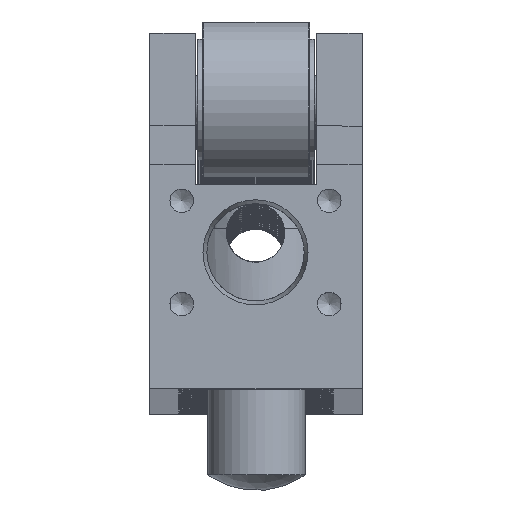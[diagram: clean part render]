
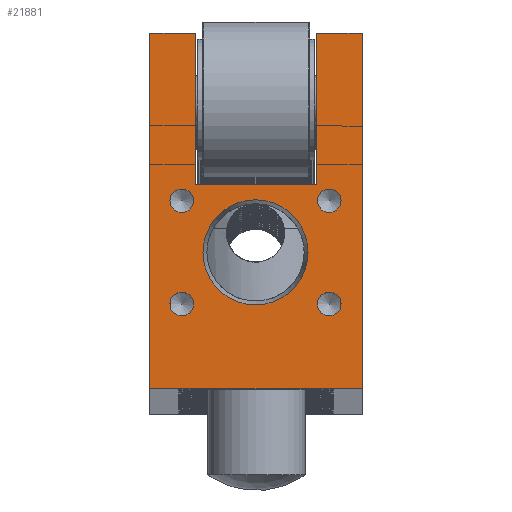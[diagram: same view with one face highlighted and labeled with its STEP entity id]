
A CAD part, top view. The second image highlights one B-rep face of the part: STEP entity #21881.
In plain terms, the highlighted planar face has unit normal (0, 0, 1).
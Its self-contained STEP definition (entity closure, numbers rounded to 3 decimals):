
#779=FACE_BOUND('',#3790,.T.);
#780=FACE_BOUND('',#3791,.T.);
#781=FACE_BOUND('',#3792,.T.);
#782=FACE_BOUND('',#3793,.T.);
#783=FACE_BOUND('',#3794,.T.);
#1220=PLANE('',#24505);
#2432=FACE_OUTER_BOUND('',#3789,.T.);
#3789=EDGE_LOOP('',(#17209,#17210,#17211,#17212,#17213,#17214,#17215,#17216));
#3790=EDGE_LOOP('',(#17217));
#3791=EDGE_LOOP('',(#17218,#17219));
#3792=EDGE_LOOP('',(#17220,#17221));
#3793=EDGE_LOOP('',(#17222,#17223));
#3794=EDGE_LOOP('',(#17224,#17225));
#4880=LINE('',#39243,#5709);
#4881=LINE('',#39245,#5710);
#4882=LINE('',#39247,#5711);
#4883=LINE('',#39249,#5712);
#4884=LINE('',#39251,#5713);
#4885=LINE('',#39253,#5714);
#4886=LINE('',#39255,#5715);
#4887=LINE('',#39256,#5716);
#5709=VECTOR('',#30353,10.);
#5710=VECTOR('',#30354,10.);
#5711=VECTOR('',#30355,10.);
#5712=VECTOR('',#30356,10.);
#5713=VECTOR('',#30357,10.);
#5714=VECTOR('',#30358,10.);
#5715=VECTOR('',#30359,10.);
#5716=VECTOR('',#30360,10.);
#7416=CIRCLE('',#24506,5.402);
#7417=CIRCLE('',#24507,1.23);
#7418=CIRCLE('',#24508,1.23);
#7419=CIRCLE('',#24509,1.23);
#7420=CIRCLE('',#24510,1.23);
#7421=CIRCLE('',#24511,1.23);
#7422=CIRCLE('',#24512,1.23);
#7423=CIRCLE('',#24513,1.23);
#7424=CIRCLE('',#24514,1.23);
#9391=VERTEX_POINT('',#39241);
#9392=VERTEX_POINT('',#39242);
#9393=VERTEX_POINT('',#39244);
#9394=VERTEX_POINT('',#39246);
#9395=VERTEX_POINT('',#39248);
#9396=VERTEX_POINT('',#39250);
#9397=VERTEX_POINT('',#39252);
#9398=VERTEX_POINT('',#39254);
#9399=VERTEX_POINT('',#39257);
#9400=VERTEX_POINT('',#39259);
#9401=VERTEX_POINT('',#39260);
#9402=VERTEX_POINT('',#39263);
#9403=VERTEX_POINT('',#39264);
#9404=VERTEX_POINT('',#39267);
#9405=VERTEX_POINT('',#39268);
#9406=VERTEX_POINT('',#39271);
#9407=VERTEX_POINT('',#39272);
#12214=EDGE_CURVE('',#9391,#9392,#4880,.T.);
#12215=EDGE_CURVE('',#9392,#9393,#4881,.T.);
#12216=EDGE_CURVE('',#9393,#9394,#4882,.T.);
#12217=EDGE_CURVE('',#9394,#9395,#4883,.T.);
#12218=EDGE_CURVE('',#9395,#9396,#4884,.T.);
#12219=EDGE_CURVE('',#9396,#9397,#4885,.T.);
#12220=EDGE_CURVE('',#9397,#9398,#4886,.T.);
#12221=EDGE_CURVE('',#9398,#9391,#4887,.T.);
#12222=EDGE_CURVE('',#9399,#9399,#7416,.T.);
#12223=EDGE_CURVE('',#9400,#9401,#7417,.T.);
#12224=EDGE_CURVE('',#9401,#9400,#7418,.T.);
#12225=EDGE_CURVE('',#9402,#9403,#7419,.T.);
#12226=EDGE_CURVE('',#9403,#9402,#7420,.T.);
#12227=EDGE_CURVE('',#9404,#9405,#7421,.T.);
#12228=EDGE_CURVE('',#9405,#9404,#7422,.T.);
#12229=EDGE_CURVE('',#9406,#9407,#7423,.T.);
#12230=EDGE_CURVE('',#9407,#9406,#7424,.T.);
#17209=ORIENTED_EDGE('',*,*,#12214,.T.);
#17210=ORIENTED_EDGE('',*,*,#12215,.T.);
#17211=ORIENTED_EDGE('',*,*,#12216,.T.);
#17212=ORIENTED_EDGE('',*,*,#12217,.T.);
#17213=ORIENTED_EDGE('',*,*,#12218,.T.);
#17214=ORIENTED_EDGE('',*,*,#12219,.T.);
#17215=ORIENTED_EDGE('',*,*,#12220,.T.);
#17216=ORIENTED_EDGE('',*,*,#12221,.T.);
#17217=ORIENTED_EDGE('',*,*,#12222,.F.);
#17218=ORIENTED_EDGE('',*,*,#12223,.T.);
#17219=ORIENTED_EDGE('',*,*,#12224,.T.);
#17220=ORIENTED_EDGE('',*,*,#12225,.T.);
#17221=ORIENTED_EDGE('',*,*,#12226,.T.);
#17222=ORIENTED_EDGE('',*,*,#12227,.T.);
#17223=ORIENTED_EDGE('',*,*,#12228,.T.);
#17224=ORIENTED_EDGE('',*,*,#12229,.T.);
#17225=ORIENTED_EDGE('',*,*,#12230,.T.);
#21881=ADVANCED_FACE('',(#2432,#779,#780,#781,#782,#783),#1220,.T.);
#24505=AXIS2_PLACEMENT_3D('',#39240,#30351,#30352);
#24506=AXIS2_PLACEMENT_3D('',#39258,#30361,#30362);
#24507=AXIS2_PLACEMENT_3D('',#39261,#30363,#30364);
#24508=AXIS2_PLACEMENT_3D('',#39262,#30365,#30366);
#24509=AXIS2_PLACEMENT_3D('',#39265,#30367,#30368);
#24510=AXIS2_PLACEMENT_3D('',#39266,#30369,#30370);
#24511=AXIS2_PLACEMENT_3D('',#39269,#30371,#30372);
#24512=AXIS2_PLACEMENT_3D('',#39270,#30373,#30374);
#24513=AXIS2_PLACEMENT_3D('',#39273,#30375,#30376);
#24514=AXIS2_PLACEMENT_3D('',#39274,#30377,#30378);
#30351=DIRECTION('center_axis',(0.,0.,1.));
#30352=DIRECTION('ref_axis',(1.,0.,0.));
#30353=DIRECTION('',(1.,0.,0.));
#30354=DIRECTION('',(0.,1.,0.));
#30355=DIRECTION('',(-1.,0.,0.));
#30356=DIRECTION('',(0.,-1.,0.));
#30357=DIRECTION('',(-1.,0.,0.));
#30358=DIRECTION('',(0.,1.,0.));
#30359=DIRECTION('',(-1.,0.,0.));
#30360=DIRECTION('',(0.,-1.,0.));
#30361=DIRECTION('center_axis',(0.,0.,1.));
#30362=DIRECTION('ref_axis',(-1.,0.,0.));
#30363=DIRECTION('center_axis',(0.,0.,-1.));
#30364=DIRECTION('ref_axis',(1.,0.,0.));
#30365=DIRECTION('center_axis',(0.,0.,-1.));
#30366=DIRECTION('ref_axis',(1.,0.,0.));
#30367=DIRECTION('center_axis',(0.,0.,-1.));
#30368=DIRECTION('ref_axis',(1.,0.,0.));
#30369=DIRECTION('center_axis',(0.,0.,-1.));
#30370=DIRECTION('ref_axis',(1.,0.,0.));
#30371=DIRECTION('center_axis',(0.,0.,-1.));
#30372=DIRECTION('ref_axis',(1.,0.,0.));
#30373=DIRECTION('center_axis',(0.,0.,-1.));
#30374=DIRECTION('ref_axis',(1.,0.,0.));
#30375=DIRECTION('center_axis',(0.,0.,-1.));
#30376=DIRECTION('ref_axis',(1.,0.,0.));
#30377=DIRECTION('center_axis',(0.,0.,-1.));
#30378=DIRECTION('ref_axis',(1.,0.,0.));
#39240=CARTESIAN_POINT('Origin',(0.,0.893,
380.));
#39241=CARTESIAN_POINT('',(-10.9,-18.25,380.));
#39242=CARTESIAN_POINT('',(10.9,-18.25,380.));
#39243=CARTESIAN_POINT('',(-10.9,-18.25,380.));
#39244=CARTESIAN_POINT('',(10.9,18.25,380.));
#39245=CARTESIAN_POINT('',(10.9,-18.25,380.));
#39246=CARTESIAN_POINT('',(6.25,18.25,380.));
#39247=CARTESIAN_POINT('',(10.9,18.25,380.));
#39248=CARTESIAN_POINT('',(6.25,2.75,380.));
#39249=CARTESIAN_POINT('',(6.25,18.25,380.));
#39250=CARTESIAN_POINT('',(-6.25,2.75,380.));
#39251=CARTESIAN_POINT('',(6.25,2.75,380.));
#39252=CARTESIAN_POINT('',(-6.25,18.25,380.));
#39253=CARTESIAN_POINT('',(-6.25,2.75,380.));
#39254=CARTESIAN_POINT('',(-10.9,18.25,380.));
#39255=CARTESIAN_POINT('',(-6.25,18.25,380.));
#39256=CARTESIAN_POINT('',(-10.9,18.25,380.));
#39257=CARTESIAN_POINT('',(5.352,-4.25,380.));
#39258=CARTESIAN_POINT('Origin',(-0.05,-4.25,380.));
#39259=CARTESIAN_POINT('',(-6.398,-9.556,380.));
#39260=CARTESIAN_POINT('',(-8.857,-9.556,380.));
#39261=CARTESIAN_POINT('Origin',(-7.627,-9.556,380.));
#39262=CARTESIAN_POINT('Origin',(-7.627,-9.556,380.));
#39263=CARTESIAN_POINT('',(8.757,1.056,380.));
#39264=CARTESIAN_POINT('',(6.298,1.056,380.));
#39265=CARTESIAN_POINT('Origin',(7.527,1.056,380.));
#39266=CARTESIAN_POINT('Origin',(7.527,1.056,380.));
#39267=CARTESIAN_POINT('',(-6.398,1.056,380.));
#39268=CARTESIAN_POINT('',(-8.857,1.056,380.));
#39269=CARTESIAN_POINT('Origin',(-7.627,1.056,380.));
#39270=CARTESIAN_POINT('Origin',(-7.627,1.056,380.));
#39271=CARTESIAN_POINT('',(8.757,-9.556,380.));
#39272=CARTESIAN_POINT('',(6.298,-9.556,380.));
#39273=CARTESIAN_POINT('Origin',(7.527,-9.556,380.));
#39274=CARTESIAN_POINT('Origin',(7.527,-9.556,380.));
